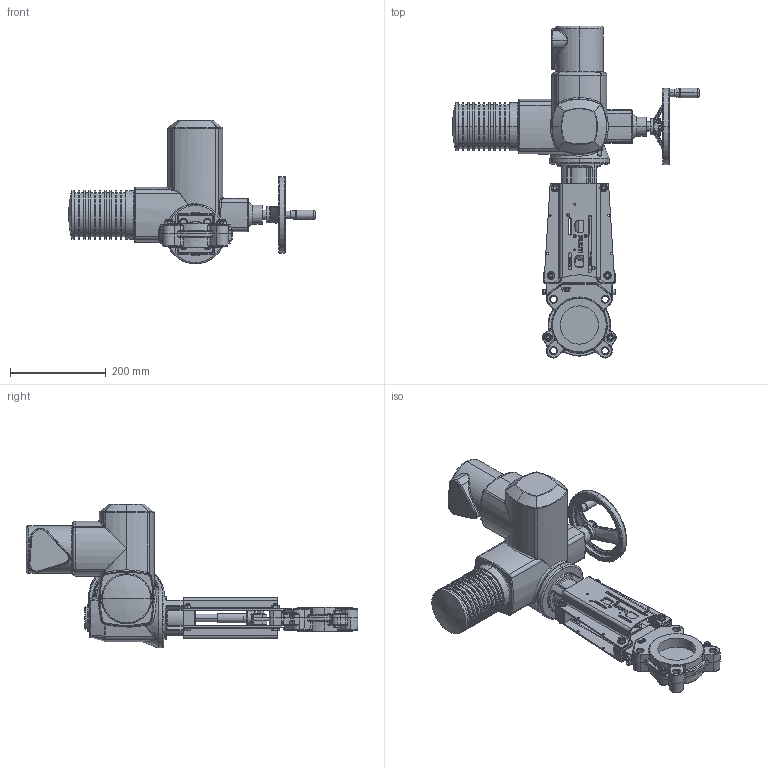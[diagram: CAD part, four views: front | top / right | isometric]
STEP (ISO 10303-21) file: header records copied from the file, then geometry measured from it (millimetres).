
FILE_DESCRIPTION (( 'STEP AP214' ), '1' );
FILE_NAME ('VSE DN 0080.STEP', '2015-09-23T11:18:43', ( 'admin' ), ( 'Hewlett-Packard Company' ), 'SwSTEP 2.0', 'SolidWorks 2013', '' );
FILE_SCHEMA (( 'AUTOMOTIVE_DESIGN' ));
Length unit declared in the file: millimetre
Products named in the file (1): VSE DN 0080
Bounding box: 516 x 693.36 x 300.5 mm (x, y, z)
Volume: 8601346.2 mm3; surface area: 715311.3 mm2
Topology: 47 solids, 49 shells, 2492 faces, 5949 edges, 3523 vertices
Faces by surface type: plane 806, cylinder 725, cone 374, bspline 308, torus 249, sphere 30
Entity records: 116019 total; most frequent: CARTESIAN_POINT 32061, DIRECTION 11758, ORIENTED_EDGE 11710, EDGE_CURVE 5855, AXIS2_PLACEMENT_3D 4720, VERTEX_POINT 3523, EDGE_LOOP 2742, UNCERTAINTY_MEASURE_WITH_UNIT 2541
